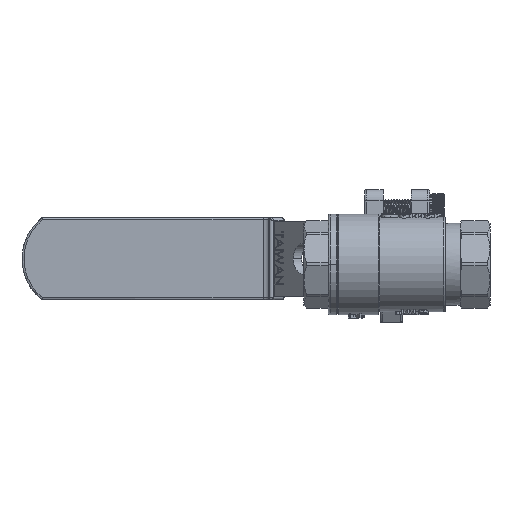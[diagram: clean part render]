
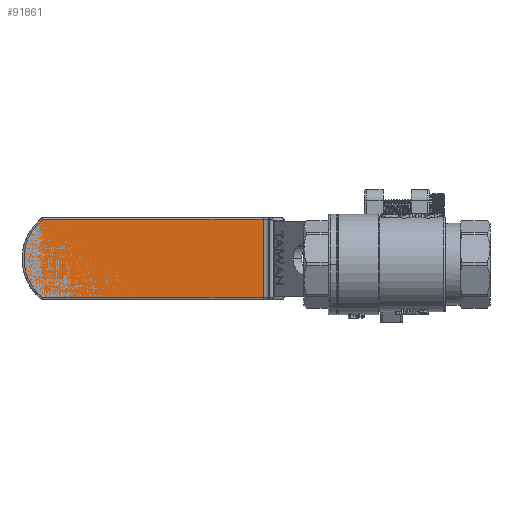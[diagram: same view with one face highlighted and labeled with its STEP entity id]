
A CAD part, front view. The second image highlights one B-rep face of the part: STEP entity #91861.
In plain terms, the highlighted planar face has unit normal (0, -1, 0).
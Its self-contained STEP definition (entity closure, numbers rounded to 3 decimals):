
#2487 = DIRECTION ( 'NONE',  ( -1., 0., 0. ) ) ;
#4804 = VERTEX_POINT ( 'NONE', #44922 ) ;
#5829 = CARTESIAN_POINT ( 'NONE',  ( -63.662, -4., 10. ) ) ;
#14230 = LINE ( 'NONE', #65209, #77191 ) ;
#16797 = EDGE_LOOP ( 'NONE', ( #108013, #79301, #57358, #19543 ) ) ;
#19543 = ORIENTED_EDGE ( 'NONE', *, *, #149039, .T. ) ;
#25702 = VECTOR ( 'NONE', #131104, 1000. ) ;
#29670 = LINE ( 'NONE', #81566, #25702 ) ;
#30068 = AXIS2_PLACEMENT_3D ( 'NONE', #149908, #74583, #162618 ) ;
#30448 = CIRCLE ( 'NONE', #30068, 13.5 ) ;
#32991 = EDGE_CURVE ( 'NONE', #105474, #4804, #30448, .T. ) ;
#34539 = DIRECTION ( 'NONE',  ( -1., 0., 0. ) ) ;
#41201 = EDGE_CURVE ( 'NONE', #43374, #110312, #104461, .T. ) ;
#41534 = VECTOR ( 'NONE', #131792, 1000. ) ;
#43374 = VERTEX_POINT ( 'NONE', #54447 ) ;
#44922 = CARTESIAN_POINT ( 'NONE',  ( -4.515, -4., 10.5 ) ) ;
#54447 = CARTESIAN_POINT ( 'NONE',  ( -63.662, -4., 10.5 ) ) ;
#57358 = ORIENTED_EDGE ( 'NONE', *, *, #32991, .T. ) ;
#65209 = CARTESIAN_POINT ( 'NONE',  ( -63.662, -4., 10.5 ) ) ;
#69366 = AXIS2_PLACEMENT_3D ( 'NONE', #97222, #109896, #34539 ) ;
#74583 = DIRECTION ( 'NONE',  ( 0., -1., 0. ) ) ;
#77191 = VECTOR ( 'NONE', #2487, 1000. ) ;
#79301 = ORIENTED_EDGE ( 'NONE', *, *, #90351, .T. ) ;
#81566 = CARTESIAN_POINT ( 'NONE',  ( -63.662, -4., -10.5 ) ) ;
#90351 = EDGE_CURVE ( 'NONE', #110312, #105474, #29670, .T. ) ;
#91861 = ADVANCED_FACE ( 'NONE', ( #131809 ), #159383, .F. ) ;
#97222 = CARTESIAN_POINT ( 'NONE',  ( -63.662, -4., 10. ) ) ;
#104461 = LINE ( 'NONE', #5829, #41534 ) ;
#105474 = VERTEX_POINT ( 'NONE', #142101 ) ;
#108013 = ORIENTED_EDGE ( 'NONE', *, *, #41201, .T. ) ;
#109896 = DIRECTION ( 'NONE',  ( 0., 1., 0. ) ) ;
#110312 = VERTEX_POINT ( 'NONE', #158091 ) ;
#131104 = DIRECTION ( 'NONE',  ( 1., 0., 0. ) ) ;
#131792 = DIRECTION ( 'NONE',  ( 0., 0., -1. ) ) ;
#131809 = FACE_OUTER_BOUND ( 'NONE', #16797, .T. ) ;
#142101 = CARTESIAN_POINT ( 'NONE',  ( -4.515, -4., -10.5 ) ) ;
#149039 = EDGE_CURVE ( 'NONE', #4804, #43374, #14230, .T. ) ;
#149908 = CARTESIAN_POINT ( 'NONE',  ( -13., -4., 0. ) ) ;
#158091 = CARTESIAN_POINT ( 'NONE',  ( -63.662, -4., -10.5 ) ) ;
#159383 = PLANE ( 'NONE',  #69366 ) ;
#162618 = DIRECTION ( 'NONE',  ( -1., 0., 0. ) ) ;
